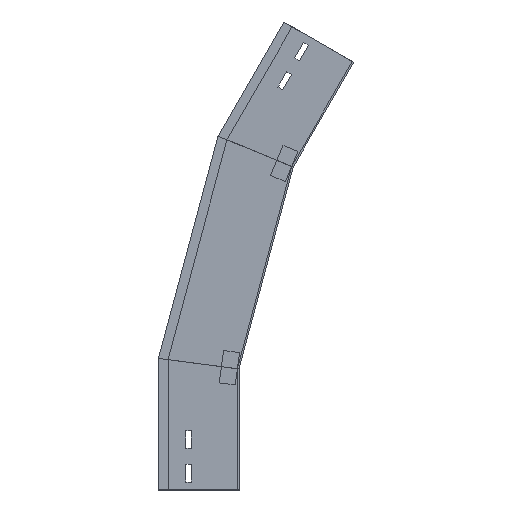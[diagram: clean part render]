
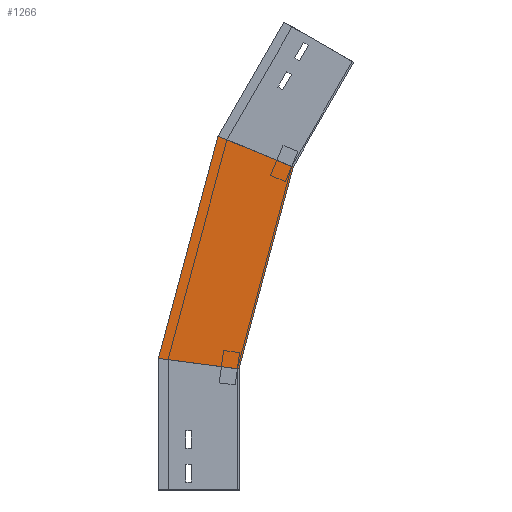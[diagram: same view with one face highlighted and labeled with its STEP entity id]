
A CAD part, left-side view. The second image highlights one B-rep face of the part: STEP entity #1266.
In plain terms, the highlighted planar face has unit normal (-1, 0, 0) as drawn and (1, 0, 0) by its records, which use the part's own axes.
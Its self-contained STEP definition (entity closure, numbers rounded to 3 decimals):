
#7 = VECTOR ( 'NONE', #1432, 1000. ) ;
#20 = CARTESIAN_POINT ( 'NONE',  ( 0., -19.411, 147.444 ) ) ;
#25 = CARTESIAN_POINT ( 'NONE',  ( 0., 100., 163.165 ) ) ;
#131 = CARTESIAN_POINT ( 'NONE',  ( 0., 3.774, 135.915 ) ) ;
#132 = DIRECTION ( 'NONE',  ( 0., -0.924, -0.383 ) ) ;
#173 = VERTEX_POINT ( 'NONE', #25 ) ;
#177 = DIRECTION ( 'NONE',  ( 0., 0., -1. ) ) ;
#189 = DIRECTION ( 'NONE',  ( 0., -0.259, 0.966 ) ) ;
#299 = EDGE_CURVE ( 'NONE', #173, #344, #1447, .T. ) ;
#307 = CARTESIAN_POINT ( 'NONE',  ( 0., 100.367, 161.797 ) ) ;
#308 = ORIENTED_EDGE ( 'NONE', *, *, #1042, .F. ) ;
#340 = AXIS2_PLACEMENT_3D ( 'NONE', #1476, #1338, #177 ) ;
#344 = VERTEX_POINT ( 'NONE', #999 ) ;
#394 = ORIENTED_EDGE ( 'NONE', *, *, #299, .T. ) ;
#397 = CARTESIAN_POINT ( 'NONE',  ( 0., 0., 150. ) ) ;
#458 = ORIENTED_EDGE ( 'NONE', *, *, #1381, .F. ) ;
#492 = LINE ( 'NONE', #829, #1300 ) ;
#520 = EDGE_LOOP ( 'NONE', ( #394, #1306, #458, #308 ) ) ;
#618 = LINE ( 'NONE', #131, #724 ) ;
#724 = VECTOR ( 'NONE', #749, 1000. ) ;
#749 = DIRECTION ( 'NONE',  ( 0., -0.259, 0.966 ) ) ;
#762 = EDGE_CURVE ( 'NONE', #344, #1175, #492, .T. ) ;
#829 = CARTESIAN_POINT ( 'NONE',  ( 0., -100.025, 386.509 ) ) ;
#999 = CARTESIAN_POINT ( 'NONE',  ( 0., 26.151, 438.773 ) ) ;
#1024 = FACE_OUTER_BOUND ( 'NONE', #520, .T. ) ;
#1042 = EDGE_CURVE ( 'NONE', #173, #1362, #1438, .T. ) ;
#1130 = CARTESIAN_POINT ( 'NONE',  ( 0., -67.034, 400.175 ) ) ;
#1137 = PLANE ( 'NONE',  #340 ) ;
#1175 = VERTEX_POINT ( 'NONE', #1130 ) ;
#1266 = ADVANCED_FACE ( 'NONE', ( #1024 ), #1137, .T. ) ;
#1279 = VECTOR ( 'NONE', #189, 1000. ) ;
#1300 = VECTOR ( 'NONE', #132, 1000. ) ;
#1306 = ORIENTED_EDGE ( 'NONE', *, *, #762, .T. ) ;
#1338 = DIRECTION ( 'NONE',  ( 1., 0., 0. ) ) ;
#1362 = VERTEX_POINT ( 'NONE', #397 ) ;
#1381 = EDGE_CURVE ( 'NONE', #1362, #1175, #618, .T. ) ;
#1432 = DIRECTION ( 'NONE',  ( 0., -0.991, -0.131 ) ) ;
#1438 = LINE ( 'NONE', #20, #7 ) ;
#1447 = LINE ( 'NONE', #307, #1279 ) ;
#1476 = CARTESIAN_POINT ( 'NONE',  ( 0., 3.774, 135.915 ) ) ;
